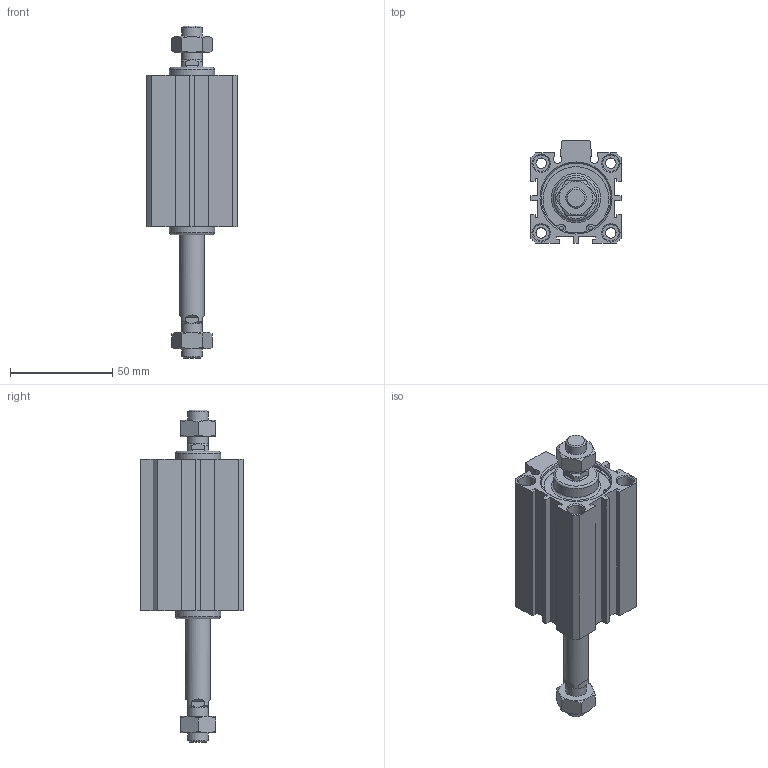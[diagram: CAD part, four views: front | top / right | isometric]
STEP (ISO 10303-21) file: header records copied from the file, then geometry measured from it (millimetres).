
FILE_DESCRIPTION((''),'2;1');
FILE_NAME('I:\3D電子目錄\氣缸\JDD\JDD-BS\JDD32-BS\JDD32x40-BS.stp','2007-02-27T14:05:48',('662F206'),(''),'Autodesk Inventor 10','Autodesk Inventor 10','');
FILE_SCHEMA(('AUTOMOTIVE_DESIGN { 1 0 10303 214 1 1 1 1 }'));
Length unit declared in the file: millimetre
Products named in the file (3): JDD32-BS; R 形環 35
Assembly tree (3 placements, depth 2):
  JDD32-BS
    JDD32-BS
    R 形環 35  x2
Bounding box: 44 x 50 x 162 mm (x, y, z)
Volume: 136604.7 mm3; surface area: 35838.3 mm2
Topology: 3 solids, 3 shells, 207 faces, 489 edges, 314 vertices
Faces by surface type: plane 112, cylinder 53, cone 38, bspline 2, torus 2
Full cylindrical faces by diameter (mm): 1.9 x4, 2.2 x2, 5.1 x4, 8 x8, 10 x4, 12 x1, 22 x2, 34 x4, 36 x2
Entity records: 5397 total; most frequent: CARTESIAN_POINT 1081, DIRECTION 894, ORIENTED_EDGE 802, EDGE_CURVE 401, AXIS2_PLACEMENT_3D 346, VERTEX_POINT 287, EDGE_LOOP 284, VECTOR 202
